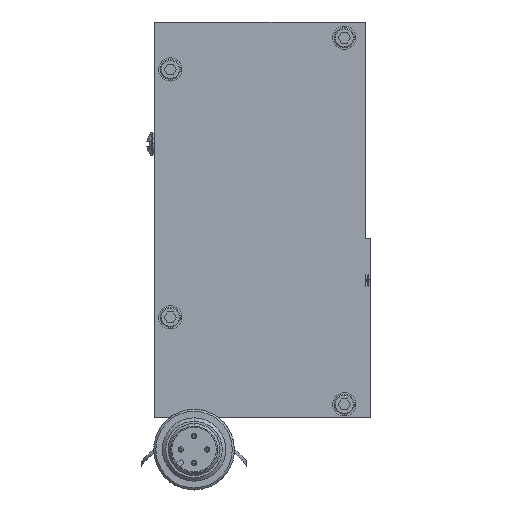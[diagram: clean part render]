
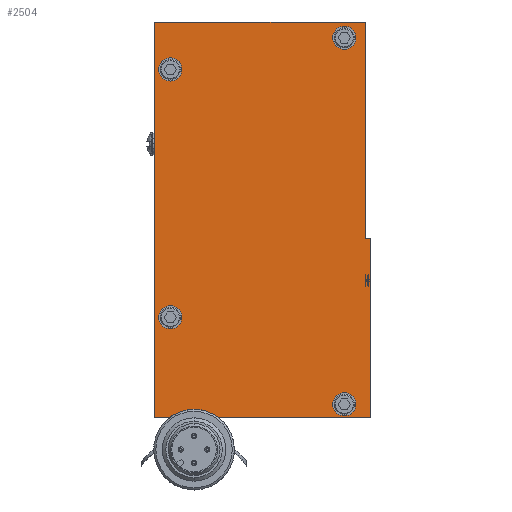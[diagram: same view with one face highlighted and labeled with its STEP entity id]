
A CAD part, top view. The second image highlights one B-rep face of the part: STEP entity #2504.
In plain terms, the highlighted planar face has unit normal (0, 0, 1).
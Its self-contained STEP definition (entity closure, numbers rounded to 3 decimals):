
#254 = ORIENTED_EDGE ( 'NONE', *, *, #35675, .T. ) ;
#330 = CARTESIAN_POINT ( 'NONE',  ( -24.287, -3.505, 31.832 ) ) ;
#808 = CARTESIAN_POINT ( 'NONE',  ( -22.087, 65.995, 31.832 ) ) ;
#1584 = ORIENTED_EDGE ( 'NONE', *, *, #28464, .F. ) ;
#1818 = CARTESIAN_POINT ( 'NONE',  ( -20.287, 27.995, 31.832 ) ) ;
#1902 = EDGE_CURVE ( 'NONE', #26459, #8496, #35244, .T. ) ;
#2009 = DIRECTION ( 'NONE',  ( 0., -1., 0. ) ) ;
#2504 = ADVANCED_FACE ( 'NONE', ( #18494, #5221, #40138, #27323, #18069 ), #24571, .F. ) ;
#2860 = ORIENTED_EDGE ( 'NONE', *, *, #7250, .F. ) ;
#2896 = DIRECTION ( 'NONE',  ( 1., 0., 0. ) ) ;
#3057 = VERTEX_POINT ( 'NONE', #28309 ) ;
#3551 = AXIS2_PLACEMENT_3D ( 'NONE', #24300, #36505, #13770 ) ;
#3849 = DIRECTION ( 'NONE',  ( 1., 0., 0. ) ) ;
#3856 = CARTESIAN_POINT ( 'NONE',  ( -24.287, 65.995, 31.832 ) ) ;
#4035 = EDGE_LOOP ( 'NONE', ( #15016, #28521 ) ) ;
#4230 = ORIENTED_EDGE ( 'NONE', *, *, #7488, .F. ) ;
#4244 = ORIENTED_EDGE ( 'NONE', *, *, #1902, .F. ) ;
#4884 = DIRECTION ( 'NONE',  ( -1., 0., 0. ) ) ;
#5078 = CARTESIAN_POINT ( 'NONE',  ( -19.287, 27.995, 31.832 ) ) ;
#5221 = FACE_BOUND ( 'NONE', #40183, .T. ) ;
#5368 = VECTOR ( 'NONE', #17041, 1000. ) ;
#6904 = VERTEX_POINT ( 'NONE', #15474 ) ;
#6939 = LINE ( 'NONE', #36174, #5368 ) ;
#7171 = AXIS2_PLACEMENT_3D ( 'NONE', #22954, #9881, #32187 ) ;
#7195 = VECTOR ( 'NONE', #37302, 1000. ) ;
#7250 = EDGE_CURVE ( 'NONE', #8496, #26459, #30867, .T. ) ;
#7396 = DIRECTION ( 'NONE',  ( 0., 0., 1. ) ) ;
#7414 = ORIENTED_EDGE ( 'NONE', *, *, #23528, .F. ) ;
#7488 = EDGE_CURVE ( 'NONE', #9596, #21714, #6939, .T. ) ;
#7699 = AXIS2_PLACEMENT_3D ( 'NONE', #39401, #25755, #10579 ) ;
#8484 = VERTEX_POINT ( 'NONE', #37822 ) ;
#8496 = VERTEX_POINT ( 'NONE', #41408 ) ;
#8646 = AXIS2_PLACEMENT_3D ( 'NONE', #12920, #18864, #12707 ) ;
#8673 = CARTESIAN_POINT ( 'NONE',  ( -59.487, 12.995, 31.832 ) ) ;
#8748 = LINE ( 'NONE', #15887, #18431 ) ;
#9243 = ORIENTED_EDGE ( 'NONE', *, *, #34914, .F. ) ;
#9359 = DIRECTION ( 'NONE',  ( 0., 0., 1. ) ) ;
#9596 = VERTEX_POINT ( 'NONE', #12848 ) ;
#9881 = DIRECTION ( 'NONE',  ( 0., 0., 1. ) ) ;
#10579 = DIRECTION ( 'NONE',  ( 1., 0., 0. ) ) ;
#10995 = CARTESIAN_POINT ( 'NONE',  ( -19.287, -6.005, 31.832 ) ) ;
#11303 = DIRECTION ( 'NONE',  ( -1., 0., 0. ) ) ;
#11582 = ORIENTED_EDGE ( 'NONE', *, *, #37040, .F. ) ;
#11591 = DIRECTION ( 'NONE',  ( 0., 0., 1. ) ) ;
#11781 = VERTEX_POINT ( 'NONE', #21185 ) ;
#12707 = DIRECTION ( 'NONE',  ( 1., 0., 0. ) ) ;
#12848 = CARTESIAN_POINT ( 'NONE',  ( -60.287, -6.005, 31.832 ) ) ;
#12920 = CARTESIAN_POINT ( 'NONE',  ( -24.287, -3.505, 31.832 ) ) ;
#13062 = AXIS2_PLACEMENT_3D ( 'NONE', #3856, #7396, #36453 ) ;
#13476 = CARTESIAN_POINT ( 'NONE',  ( -19.287, -6.005, 31.832 ) ) ;
#13770 = DIRECTION ( 'NONE',  ( 1., 0., 0. ) ) ;
#15016 = ORIENTED_EDGE ( 'NONE', *, *, #18607, .F. ) ;
#15092 = CIRCLE ( 'NONE', #13062, 2.2 ) ;
#15474 = CARTESIAN_POINT ( 'NONE',  ( -59.487, 59.995, 31.832 ) ) ;
#15877 = CARTESIAN_POINT ( 'NONE',  ( -24.287, 65.995, 31.832 ) ) ;
#15887 = CARTESIAN_POINT ( 'NONE',  ( -20.287, 68.995, 31.832 ) ) ;
#16117 = EDGE_LOOP ( 'NONE', ( #37446, #11582 ) ) ;
#16202 = LINE ( 'NONE', #31977, #32543 ) ;
#17041 = DIRECTION ( 'NONE',  ( 0., 1., 0. ) ) ;
#18069 = FACE_BOUND ( 'NONE', #25698, .T. ) ;
#18431 = VECTOR ( 'NONE', #28733, 1000. ) ;
#18494 = FACE_OUTER_BOUND ( 'NONE', #29678, .T. ) ;
#18607 = EDGE_CURVE ( 'NONE', #30551, #8484, #15092, .T. ) ;
#18864 = DIRECTION ( 'NONE',  ( 0., 0., 1. ) ) ;
#20129 = VERTEX_POINT ( 'NONE', #35592 ) ;
#21185 = CARTESIAN_POINT ( 'NONE',  ( -55.087, 59.995, 31.832 ) ) ;
#21661 = ORIENTED_EDGE ( 'NONE', *, *, #25128, .F. ) ;
#21714 = VERTEX_POINT ( 'NONE', #32386 ) ;
#21724 = VERTEX_POINT ( 'NONE', #22722 ) ;
#22722 = CARTESIAN_POINT ( 'NONE',  ( -22.087, -3.505, 31.832 ) ) ;
#22954 = CARTESIAN_POINT ( 'NONE',  ( -57.287, 59.995, 31.832 ) ) ;
#23528 = EDGE_CURVE ( 'NONE', #21714, #20129, #8748, .T. ) ;
#23861 = LINE ( 'NONE', #10995, #24691 ) ;
#24300 = CARTESIAN_POINT ( 'NONE',  ( -57.287, 59.995, 31.832 ) ) ;
#24571 = PLANE ( 'NONE',  #36709 ) ;
#24691 = VECTOR ( 'NONE', #2009, 1000. ) ;
#25128 = EDGE_CURVE ( 'NONE', #38792, #27693, #23861, .T. ) ;
#25698 = EDGE_LOOP ( 'NONE', ( #2860, #4244 ) ) ;
#25755 = DIRECTION ( 'NONE',  ( 0., 0., 1. ) ) ;
#25796 = AXIS2_PLACEMENT_3D ( 'NONE', #330, #28677, #3849 ) ;
#26134 = ORIENTED_EDGE ( 'NONE', *, *, #28872, .F. ) ;
#26459 = VERTEX_POINT ( 'NONE', #8673 ) ;
#27323 = FACE_BOUND ( 'NONE', #16117, .T. ) ;
#27465 = CIRCLE ( 'NONE', #32151, 2.2 ) ;
#27693 = VERTEX_POINT ( 'NONE', #41550 ) ;
#27849 = CARTESIAN_POINT ( 'NONE',  ( -19.287, 27.995, 31.832 ) ) ;
#27931 = EDGE_CURVE ( 'NONE', #21724, #3057, #40568, .T. ) ;
#28309 = CARTESIAN_POINT ( 'NONE',  ( -26.487, -3.505, 31.832 ) ) ;
#28464 = EDGE_CURVE ( 'NONE', #20129, #40991, #16202, .T. ) ;
#28521 = ORIENTED_EDGE ( 'NONE', *, *, #36901, .F. ) ;
#28677 = DIRECTION ( 'NONE',  ( 0., 0., 1. ) ) ;
#28733 = DIRECTION ( 'NONE',  ( 1., 0., 0. ) ) ;
#28872 = EDGE_CURVE ( 'NONE', #6904, #11781, #31754, .T. ) ;
#29039 = DIRECTION ( 'NONE',  ( 0., -1., 0. ) ) ;
#29678 = EDGE_LOOP ( 'NONE', ( #254, #1584, #7414, #4230, #9243, #21661 ) ) ;
#30551 = VERTEX_POINT ( 'NONE', #808 ) ;
#30867 = CIRCLE ( 'NONE', #38897, 2.2 ) ;
#31291 = DIRECTION ( 'NONE',  ( 0., 0., -1. ) ) ;
#31754 = CIRCLE ( 'NONE', #3551, 2.2 ) ;
#31955 = CIRCLE ( 'NONE', #7171, 2.2 ) ;
#31977 = CARTESIAN_POINT ( 'NONE',  ( -20.287, -6.005, 31.832 ) ) ;
#32151 = AXIS2_PLACEMENT_3D ( 'NONE', #15877, #9359, #2896 ) ;
#32187 = DIRECTION ( 'NONE',  ( 1., 0., 0. ) ) ;
#32386 = CARTESIAN_POINT ( 'NONE',  ( -60.287, 68.995, 31.832 ) ) ;
#32543 = VECTOR ( 'NONE', #29039, 1000. ) ;
#33719 = CARTESIAN_POINT ( 'NONE',  ( -57.287, 12.995, 31.832 ) ) ;
#33733 = EDGE_CURVE ( 'NONE', #11781, #6904, #31955, .T. ) ;
#34758 = LINE ( 'NONE', #27849, #7195 ) ;
#34914 = EDGE_CURVE ( 'NONE', #27693, #9596, #39357, .T. ) ;
#35244 = CIRCLE ( 'NONE', #7699, 2.2 ) ;
#35592 = CARTESIAN_POINT ( 'NONE',  ( -20.287, 68.995, 31.832 ) ) ;
#35675 = EDGE_CURVE ( 'NONE', #38792, #40991, #34758, .T. ) ;
#36174 = CARTESIAN_POINT ( 'NONE',  ( -60.287, -6.005, 31.832 ) ) ;
#36453 = DIRECTION ( 'NONE',  ( 1., 0., 0. ) ) ;
#36505 = DIRECTION ( 'NONE',  ( 0., 0., 1. ) ) ;
#36509 = ORIENTED_EDGE ( 'NONE', *, *, #33733, .F. ) ;
#36709 = AXIS2_PLACEMENT_3D ( 'NONE', #37394, #31291, #11303 ) ;
#36901 = EDGE_CURVE ( 'NONE', #8484, #30551, #27465, .T. ) ;
#37040 = EDGE_CURVE ( 'NONE', #3057, #21724, #38875, .T. ) ;
#37269 = DIRECTION ( 'NONE',  ( 1., 0., 0. ) ) ;
#37302 = DIRECTION ( 'NONE',  ( -1., 0., 0. ) ) ;
#37394 = CARTESIAN_POINT ( 'NONE',  ( -19.287, -6.005, 31.832 ) ) ;
#37446 = ORIENTED_EDGE ( 'NONE', *, *, #27931, .F. ) ;
#37822 = CARTESIAN_POINT ( 'NONE',  ( -26.487, 65.995, 31.832 ) ) ;
#38757 = VECTOR ( 'NONE', #4884, 1000. ) ;
#38792 = VERTEX_POINT ( 'NONE', #5078 ) ;
#38875 = CIRCLE ( 'NONE', #8646, 2.2 ) ;
#38897 = AXIS2_PLACEMENT_3D ( 'NONE', #33719, #11591, #37269 ) ;
#39357 = LINE ( 'NONE', #13476, #38757 ) ;
#39401 = CARTESIAN_POINT ( 'NONE',  ( -57.287, 12.995, 31.832 ) ) ;
#40138 = FACE_BOUND ( 'NONE', #4035, .T. ) ;
#40183 = EDGE_LOOP ( 'NONE', ( #36509, #26134 ) ) ;
#40568 = CIRCLE ( 'NONE', #25796, 2.2 ) ;
#40991 = VERTEX_POINT ( 'NONE', #1818 ) ;
#41408 = CARTESIAN_POINT ( 'NONE',  ( -55.087, 12.995, 31.832 ) ) ;
#41550 = CARTESIAN_POINT ( 'NONE',  ( -19.287, -6.005, 31.832 ) ) ;
